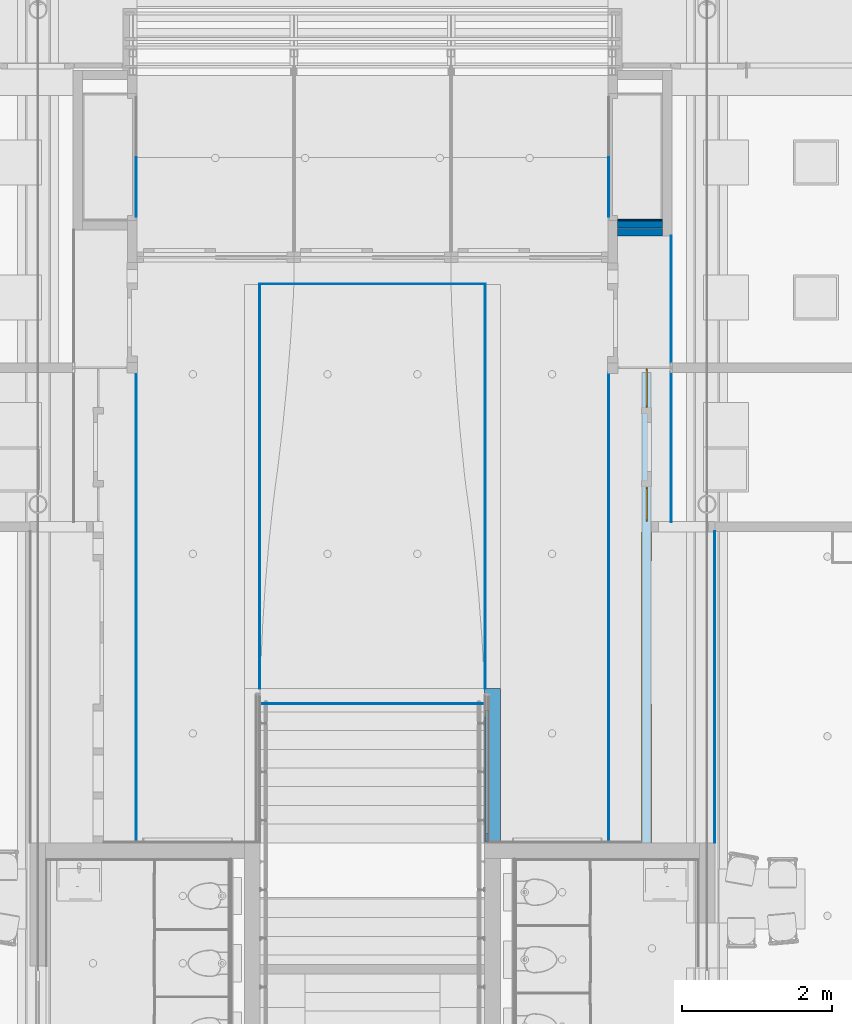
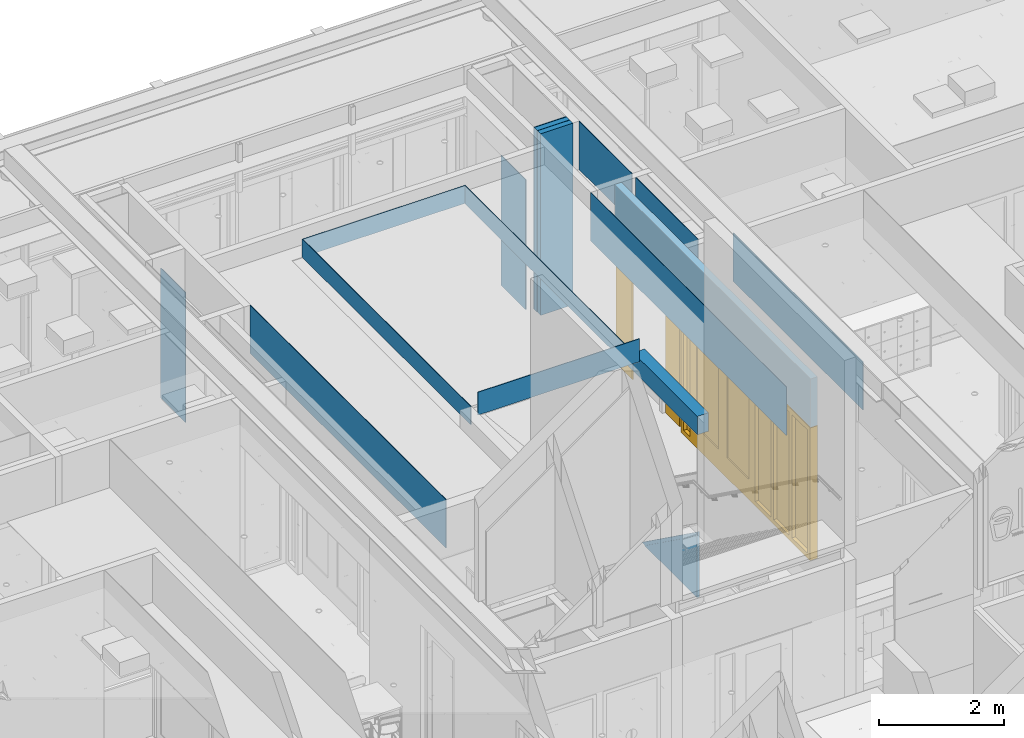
# One storey, part 83 of 347: 15 walls, 2 windows, 1 door, 4 openings, plus 1 element that does not belong to this part.
"""IFC2X3 building model written with IfcOpenShell, lengths in millimetres."""

from ifc_helpers import new_model, entity, si_unit, converted_unit, derived_unit, money_unit, direction, frame, origin_with_axes, place, context, subcontext, project, spatial, open_shell, faceted_brep, surface_model, material, type_object, element, fill, save


model = new_model("IFC2X3")

# Units and contexts
model_context = context("Model", 3, precision=0.01, world=origin_with_axes(), true_north=direction((0.0, 1.0)))
plan_context = context("Plan", 3, precision=0.01, world=origin_with_axes(), true_north=direction((0.0, 1.0)))
body_context = subcontext(model_context, "Body", "Model", "MODEL_VIEW")
ifc_project = project(units=[si_unit("LENGTHUNIT", "METRE", prefix="MILLI"), si_unit("AREAUNIT", "SQUARE_METRE"), si_unit("VOLUMEUNIT", "CUBIC_METRE"), converted_unit("PLANEANGLEUNIT", "DEGREE", entity("IfcPlaneAngleMeasure", 0.0174532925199), si_unit("PLANEANGLEUNIT", "RADIAN"), dimensions=[0, 0, 0, 0, 0, 0, 0]), money_unit("EUR"), converted_unit("TIMEUNIT", "Year", entity("IfcTimeMeasure", 31556926.0), si_unit("TIMEUNIT", "SECOND"), dimensions=[0, 0, 1, 0, 0, 0, 0]), si_unit("MASSUNIT", "GRAM", prefix="KILO"), si_unit("THERMODYNAMICTEMPERATUREUNIT", "DEGREE_CELSIUS"), si_unit("LUMINOUSINTENSITYUNIT", "LUMEN"), si_unit("ENERGYUNIT", "JOULE", prefix="MEGA"), derived_unit("THERMALCONDUCTANCEUNIT", [(si_unit("POWERUNIT", "WATT"), 1), (si_unit("LENGTHUNIT", "METRE"), -1), (si_unit("THERMODYNAMICTEMPERATUREUNIT", "KELVIN"), -1)]), derived_unit("SPECIFICHEATCAPACITYUNIT", [(si_unit("ENERGYUNIT", "JOULE"), 1), (si_unit("MASSUNIT", "GRAM", prefix="KILO"), -1), (si_unit("THERMODYNAMICTEMPERATUREUNIT", "KELVIN"), -1)]), derived_unit("MASSDENSITYUNIT", [(si_unit("MASSUNIT", "GRAM", prefix="KILO"), 1), (si_unit("VOLUMEUNIT", "CUBIC_METRE"), -1)])], contexts=[model_context, plan_context])

# Site, building, storey
site_placement = place(None, origin_with_axes())
site = spatial("IfcSite", under=ifc_project, at=site_placement, Name="Site", CompositionType="ELEMENT")
building_placement = place(site_placement, origin_with_axes())
building = spatial("IfcBuilding", under=site, at=building_placement, Name="Naam gebouw", CompositionType="ELEMENT")
storey_placement = place(building_placement, origin_with_axes())
storey = spatial("IfcBuildingStorey", under=building, at=storey_placement, Name="begane grond", CompositionType="ELEMENT", Elevation=0.0)

# Wall, openings, windows, door
ifc_material_1 = material(Name="ALG - LICHTE SCHEIDINGSWAND")
wall_type_1 = type_object("IfcWallType", Name="ALG LSW 125 125", PredefinedType="NOTDEFINED")
wall_1_placement = place(storey_placement, frame((43675.0, 34799.9999802, 0.0), z_axis=(0.0, 0.0, 1.0), x_axis=(0.0, 1.0, 0.0)))
wall_1 = element("IfcWall", 1, at=wall_1_placement, inside=storey, type_object=wall_type_1, material=ifc_material_1, Name="22_GF 125 ECO DGS/2.75.2A", context=body_context, shape_type="Brep", body=[
    faceted_brep([(0.0, -125.0, 3560.0), (5.55752777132e-05, -125.0, 2612.0), (6287.5000198, -125.0, 2612.0), (6287.5000198, -125.0, 3560.0), (0.0, 0.0, 3560.0), (5.55752777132e-05, 0.0, 2612.0), (6287.5000198, 0.0, 2612.0), (6287.5000198, 0.0, 3560.0)], [[[0, 1, 2, 3]], [[4, 5, 1, 0]], [[5, 6, 2, 1]], [[3, 2, 6, 7]], [[0, 3, 7, 4]], [[7, 6, 5, 4]]]),
])
opening_1_placement = place(wall_1_placement, frame((4525.00002877, 0.0, 0.0), z_axis=(0.0, 0.0, 1.0), x_axis=(1.0, 0.0, 0.0)))
opening_1 = element("IfcOpeningElement", 2, at=opening_1_placement, cuts=wall_1, Name="32_10.07", context=body_context, shape_type="Brep", body=[
    faceted_brep([(230.500008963, -250.0, 2600.0), (230.500008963, -250.0, 0.0), (230.500008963, -52.5, 0.0), (230.500008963, -52.5, 2600.0), (-230.500008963, -250.0, 2600.0), (-230.500008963, -250.0, 0.0), (-230.500008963, -52.5, 0.0), (-230.500008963, -52.5, 2600.0)], [[[0, 1, 2, 3]], [[0, 4, 5, 1]], [[1, 5, 6, 2]], [[3, 2, 6, 7]], [[4, 0, 3, 7]], [[5, 4, 7, 6]]]),
    faceted_brep([(230.500008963, 125.0, 0.0), (230.500008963, 125.0, 2600.0), (230.500008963, -52.5, 2600.0), (230.500008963, -52.5, 0.0), (-230.500008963, 125.0, 0.0), (-230.500008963, 125.0, 2600.0), (-230.500008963, -52.5, 2600.0), (-230.500008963, -52.5, 0.0)], [[[0, 1, 2, 3]], [[0, 4, 5, 1]], [[1, 5, 6, 2]], [[3, 2, 6, 7]], [[4, 0, 3, 7]], [[5, 4, 7, 6]]]),
])
opening_2_placement = place(wall_1_placement, frame((6079.75002877, 0.0, 0.0), z_axis=(0.0, 0.0, 1.0), x_axis=(1.0, 0.0, 0.0)))
opening_2 = element("IfcOpeningElement", 3, at=opening_2_placement, cuts=wall_1, Name="32_10.08", context=body_context, shape_type="Brep", body=[
    faceted_brep([(260.249991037, -250.0, 2600.0), (260.249991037, -250.0, 0.0), (260.249991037, -52.5, 0.0), (260.249991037, -52.5, 2600.0), (-260.249991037, -250.0, 2600.0), (-260.249991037, -250.0, 0.0), (-260.249991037, -52.5, 0.0), (-260.249991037, -52.5, 2600.0)], [[[0, 1, 2, 3]], [[0, 4, 5, 1]], [[1, 5, 6, 2]], [[3, 2, 6, 7]], [[4, 0, 3, 7]], [[5, 4, 7, 6]]]),
    faceted_brep([(260.249991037, 125.0, 0.0), (260.249991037, 125.0, 2600.0), (260.249991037, -52.5, 2600.0), (260.249991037, -52.5, 0.0), (-260.249991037, 125.0, 0.0), (-260.249991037, 125.0, 2600.0), (-260.249991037, -52.5, 2600.0), (-260.249991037, -52.5, 0.0)], [[[0, 1, 2, 3]], [[0, 4, 5, 1]], [[1, 5, 6, 2]], [[3, 2, 6, 7]], [[4, 0, 3, 7]], [[5, 4, 7, 6]]]),
])
opening_3_placement = place(wall_1_placement, frame((2077.7500198, 0.0, 0.0), z_axis=(0.0, 0.0, 1.0), x_axis=(1.0, 0.0, 0.0)))
opening_3 = element("IfcOpeningElement", 4, at=opening_3_placement, cuts=wall_1, Name="32_05.05", context=body_context, shape_type="Brep", body=[
    faceted_brep([(-2077.75, -257.0, 0.0), (-2077.75, -257.0, 2600.0), (-2077.75, 125.0, 2600.0), (-2077.75, 125.0, 0.0), (2077.75, -257.0, 0.0), (2077.75, -257.0, 2600.0), (2077.75, 125.0, 2600.0), (2077.75, 125.0, 0.0)], [[[0, 1, 2, 3]], [[0, 4, 5, 1]], [[1, 5, 6, 2]], [[3, 2, 6, 7]], [[4, 0, 3, 7]], [[5, 4, 7, 6]]]),
])
opening_4_placement = place(wall_1_placement, frame((5287.50003773, 0.0, 0.0), z_axis=(0.0, 0.0, 1.0), x_axis=(1.0, 0.0, 0.0)))
element("IfcOpeningElement", 5, at=opening_4_placement, cuts=wall_1, Name="32_01.01", context=body_context, shape_type="Brep", body=[
    faceted_brep([(532.0, 257.0, 0.0), (532.0, 257.0, 2600.0), (532.0, -125.0, 2600.0), (532.0, -125.0, 0.0), (-532.0, 257.0, 0.0), (-532.0, 257.0, 2600.0), (-532.0, -125.0, 2600.0), (-532.0, -125.0, 0.0)], [[[0, 1, 2, 3]], [[0, 4, 5, 1]], [[1, 5, 6, 2]], [[3, 2, 6, 7]], [[4, 0, 3, 7]], [[5, 4, 7, 6]]]),
])
window_style = type_object("IfcWindowStyle", Name="R1 25", ConstructionType="NOTDEFINED", OperationType="SINGLE_PANEL", ParameterTakesPrecedence=False, Sizeable=False)
window_1_placement = place(opening_1_placement, frame((-230.500008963, 0.0, 0.0), z_axis=(0.0, 0.0, 1.0), x_axis=(1.0, 0.0, 0.0)))
window_1 = element("IfcWindow", 6, at=window_1_placement, inside=storey, type_object=window_style, Name="32_10.07", ObjectType="WINDOW", OverallHeight=2600.0, OverallWidth=461.0, context=body_context, shape_type="SurfaceModel", body=[
    faceted_brep([(20.0, -72.5, 2580.0), (20.0, -52.5, 2580.0), (0.0, -52.5, 2580.0), (0.0, -72.5, 2580.0), (20.0, -72.5, 20.0), (20.0, -52.5, 20.0), (0.0, -52.5, 20.0), (0.0, -72.5, 20.0)], [[[0, 1, 2, 3]], [[4, 5, 1, 0]], [[1, 5, 6, 2]], [[3, 2, 6, 7]], [[0, 3, 7, 4]], [[7, 6, 5, 4]]]),
    faceted_brep([(441.000017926, -72.5, 20.0), (441.000017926, -52.5, 20.0), (461.000017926, -52.5, 20.0), (461.000017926, -72.5, 20.0), (441.000017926, -72.5, 2580.0), (441.000017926, -52.5, 2580.0), (461.000017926, -52.5, 2580.0), (461.000017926, -72.5, 2580.0)], [[[0, 1, 2, 3]], [[4, 5, 1, 0]], [[1, 5, 6, 2]], [[3, 2, 6, 7]], [[0, 3, 7, 4]], [[7, 6, 5, 4]]]),
    faceted_brep([(20.0, -72.5, 20.0), (20.0, -52.5, 20.0), (0.0, -52.5, 20.0), (0.0, -72.5, 20.0), (441.000017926, -72.5, 20.0), (441.000017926, -52.5, 20.0), (461.000017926, -52.5, 20.0), (461.000017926, -52.5, 0.0), (0.0, -52.5, 0.0), (0.0, -72.5, 0.0), (461.000017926, -72.5, 0.0), (461.000017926, -72.5, 20.0)], [[[0, 1, 2, 3]], [[4, 5, 1, 0]], [[1, 5, 6, 7, 8, 2]], [[3, 2, 8, 9]], [[0, 3, 9, 10, 11, 4]], [[11, 6, 5, 4]], [[10, 7, 6, 11]], [[9, 8, 7, 10]]]),
    faceted_brep([(441.000017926, -72.5, 2580.0), (441.000017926, -52.5, 2580.0), (461.000017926, -52.5, 2580.0), (461.000017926, -72.5, 2580.0), (20.0, -72.5, 2580.0), (20.0, -52.5, 2580.0), (0.0, -52.5, 2580.0), (0.0, -52.5, 2600.0), (461.000017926, -52.5, 2600.0), (461.000017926, -72.5, 2600.0), (0.0, -72.5, 2600.0), (0.0, -72.5, 2580.0)], [[[0, 1, 2, 3]], [[4, 5, 1, 0]], [[1, 5, 6, 7, 8, 2]], [[3, 2, 8, 9]], [[0, 3, 9, 10, 11, 4]], [[11, 6, 5, 4]], [[10, 7, 6, 11]], [[9, 8, 7, 10]]]),
    surface_model("IfcShellBasedSurfaceModel", [(20.0, -72.5, 20.0), (441.000017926, -72.5, 20.0), (441.000017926, -72.5, 2580.0), (20.0, -72.5, 2580.0)], [open_shell([[[0, 1, 2, 3]]])]),
    surface_model("IfcShellBasedSurfaceModel", [(20.0, -52.5, 20.0), (20.0, -52.5, 2580.0), (441.000017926, -52.5, 2580.0), (441.000017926, -52.5, 20.0)], [open_shell([[[0, 1, 2, 3]]])]),
])
fill(opening_1, window_1)
window_2_placement = place(opening_2_placement, frame((-260.249991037, 0.0, 0.0), z_axis=(0.0, 0.0, 1.0), x_axis=(1.0, 0.0, 0.0)))
window_2 = element("IfcWindow", 7, at=window_2_placement, inside=storey, type_object=window_style, Name="32_10.08", ObjectType="WINDOW", OverallHeight=2600.0, OverallWidth=520.5, context=body_context, shape_type="SurfaceModel", body=[
    faceted_brep([(20.0, -72.5, 2580.0), (20.0, -52.5, 2580.0), (0.0, -52.5, 2580.0), (0.0, -72.5, 2580.0), (20.0, -72.5, 20.0), (20.0, -52.5, 20.0), (0.0, -52.5, 20.0), (0.0, -72.5, 20.0)], [[[0, 1, 2, 3]], [[4, 5, 1, 0]], [[1, 5, 6, 2]], [[3, 2, 6, 7]], [[0, 3, 7, 4]], [[7, 6, 5, 4]]]),
    faceted_brep([(500.499982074, -72.5, 20.0), (500.499982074, -52.5, 20.0), (520.499982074, -52.5, 20.0), (520.499982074, -72.5, 20.0), (500.499982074, -72.5, 2580.0), (500.499982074, -52.5, 2580.0), (520.499982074, -52.5, 2580.0), (520.499982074, -72.5, 2580.0)], [[[0, 1, 2, 3]], [[4, 5, 1, 0]], [[1, 5, 6, 2]], [[3, 2, 6, 7]], [[0, 3, 7, 4]], [[7, 6, 5, 4]]]),
    faceted_brep([(20.0, -72.5, 20.0), (20.0, -52.5, 20.0), (0.0, -52.5, 20.0), (0.0, -72.5, 20.0), (500.499982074, -72.5, 20.0), (500.499982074, -52.5, 20.0), (520.499982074, -52.5, 20.0), (520.499982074, -52.5, 0.0), (0.0, -52.5, 0.0), (0.0, -72.5, 0.0), (520.499982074, -72.5, 0.0), (520.499982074, -72.5, 20.0)], [[[0, 1, 2, 3]], [[4, 5, 1, 0]], [[1, 5, 6, 7, 8, 2]], [[3, 2, 8, 9]], [[0, 3, 9, 10, 11, 4]], [[11, 6, 5, 4]], [[10, 7, 6, 11]], [[9, 8, 7, 10]]]),
    faceted_brep([(500.499982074, -72.5, 2580.0), (500.499982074, -52.5, 2580.0), (520.499982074, -52.5, 2580.0), (520.499982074, -72.5, 2580.0), (20.0, -72.5, 2580.0), (20.0, -52.5, 2580.0), (0.0, -52.5, 2580.0), (0.0, -52.5, 2600.0), (520.499982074, -52.5, 2600.0), (520.499982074, -72.5, 2600.0), (0.0, -72.5, 2600.0), (0.0, -72.5, 2580.0)], [[[0, 1, 2, 3]], [[4, 5, 1, 0]], [[1, 5, 6, 7, 8, 2]], [[3, 2, 8, 9]], [[0, 3, 9, 10, 11, 4]], [[11, 6, 5, 4]], [[10, 7, 6, 11]], [[9, 8, 7, 10]]]),
    surface_model("IfcShellBasedSurfaceModel", [(20.0, -72.5, 20.0), (500.499982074, -72.5, 20.0), (500.499982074, -72.5, 2580.0), (20.0, -72.5, 2580.0)], [open_shell([[[0, 1, 2, 3]]])]),
    surface_model("IfcShellBasedSurfaceModel", [(20.0, -52.5, 20.0), (20.0, -52.5, 2580.0), (500.499982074, -52.5, 2580.0), (500.499982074, -52.5, 20.0)], [open_shell([[[0, 1, 2, 3]]])]),
])
fill(opening_2, window_2)
door_style = type_object("IfcDoorStyle", Name="D2 zl2 25", ConstructionType="NOTDEFINED", OperationType="USERDEFINED", ParameterTakesPrecedence=False, Sizeable=False)
door_placement = place(opening_3_placement, frame((-2077.75, 0.0, 0.0), z_axis=(0.0, 0.0, 1.0), x_axis=(1.0, 0.0, 0.0)))
door = element("IfcDoor", 8, at=door_placement, inside=storey, type_object=door_style, Name="32_05.05", ObjectType="DOOR", OverallHeight=2600.0, OverallWidth=4155.5, context=body_context, shape_type="SurfaceModel", body=[
    faceted_brep([(4155.5, 7.0, 0.0), (4155.5, -132.0, 0.0), (4065.5, -132.0, 0.0), (4065.5, 7.0, 0.0), (4155.5, 7.0, 2510.0), (4155.5, -132.0, 2510.0), (4065.5, -132.0, 2510.0), (4065.5, -132.0, 90.0), (4065.5, 7.0, 90.0), (4065.5, 7.0, 2510.0)], [[[0, 1, 2, 3]], [[4, 5, 1, 0]], [[1, 5, 6, 7, 2]], [[3, 2, 7, 8]], [[0, 3, 8, 9, 4]], [[9, 6, 5, 4]], [[8, 7, 6, 9]]]),
    faceted_brep([(3765.5, -43.0, 0.0), (3765.5, -132.0, 0.0), (3765.5, -132.0, 2510.0), (3765.5, -43.0, 2510.0), (3790.5, -43.0, 0.0), (3790.5, 7.0, 0.0), (3855.5, 7.0, 0.0), (3855.5, -132.0, 0.0), (3855.5, -132.0, 90.0), (3855.5, -132.0, 2510.0), (3790.5, -43.0, 2510.0), (3855.5, 7.0, 2510.0), (3790.5, 7.0, 2510.0), (3855.5, 7.0, 90.0)], [[[0, 1, 2, 3]], [[4, 5, 6, 7, 1, 0]], [[7, 8, 9, 2, 1]], [[10, 3, 2, 9, 11, 12]], [[10, 4, 0, 3]], [[12, 5, 4, 10]], [[12, 11, 13, 6, 5]], [[6, 13, 8, 7]], [[13, 11, 9, 8]]]),
    faceted_brep([(4065.5, 7.0, 90.0), (4065.5, -132.0, 90.0), (4065.5, -132.0, 0.0), (4065.5, 7.0, 0.0), (3855.5, 7.0, 90.0), (3855.5, -132.0, 90.0), (3855.5, -132.0, 0.0), (3855.5, 7.0, 0.0)], [[[0, 1, 2, 3]], [[4, 5, 1, 0]], [[1, 5, 6, 2]], [[3, 2, 6, 7]], [[0, 3, 7, 4]], [[7, 6, 5, 4]]]),
    faceted_brep([(0.0, 7.0, 0.0), (0.0, -132.0, 0.0), (0.0, -132.0, 2510.0), (0.0, 7.0, 2510.0), (90.0, 7.0, 0.0), (90.0, -132.0, 0.0), (90.0, -132.0, 90.0), (90.0, -132.0, 2510.0), (90.0, 7.0, 2510.0), (90.0, 7.0, 90.0)], [[[0, 1, 2, 3]], [[4, 5, 1, 0]], [[1, 5, 6, 7, 2]], [[3, 2, 7, 8]], [[0, 3, 8, 9, 4]], [[9, 6, 5, 4]], [[8, 7, 6, 9]]]),
    faceted_brep([(1830.5, -43.0, 2510.0), (1830.5, 7.0, 2510.0), (1765.5, 7.0, 2510.0), (1765.5, -132.0, 2510.0), (1855.5, -132.0, 2510.0), (1855.5, -43.0, 2510.0), (1830.5, -43.0, 0.0), (1830.5, 7.0, 0.0), (1765.5, 7.0, 0.0), (1765.5, 7.0, 90.0), (1765.5, -132.0, 90.0), (1855.5, -132.0, 0.0), (1765.5, -132.0, 0.0), (1855.5, -43.0, 0.0)], [[[0, 1, 2, 3, 4, 5]], [[0, 6, 7, 1]], [[7, 8, 9, 2, 1]], [[2, 9, 10, 3]], [[11, 4, 3, 10, 12]], [[5, 4, 11, 13]], [[5, 13, 6, 0]], [[6, 13, 11, 12, 8, 7]], [[9, 8, 12, 10]]]),
    faceted_brep([(1765.5, 7.0, 90.0), (1765.5, -132.0, 90.0), (1765.5, -132.0, 0.0), (1765.5, 7.0, 0.0), (90.0, 7.0, 90.0), (90.0, -132.0, 90.0), (90.0, -132.0, 0.0), (90.0, 7.0, 0.0)], [[[0, 1, 2, 3]], [[4, 5, 1, 0]], [[1, 5, 6, 2]], [[3, 2, 6, 7]], [[0, 3, 7, 4]], [[7, 6, 5, 4]]]),
    faceted_brep([(3790.5, 7.0, 2535.0), (1830.5, 7.0, 2535.0), (1830.5, 7.0, 2510.0), (1765.5, 7.0, 2510.0), (90.0, 7.0, 2510.0), (0.0, 7.0, 2510.0), (0.0, 7.0, 2600.0), (4155.5, 7.0, 2600.0), (4155.5, 7.0, 2510.0), (4065.5, 7.0, 2510.0), (3855.5, 7.0, 2510.0), (3790.5, 7.0, 2510.0), (3790.5, -43.0, 2535.0), (1830.5, -43.0, 2535.0), (1830.5, -43.0, 2510.0), (1855.5, -43.0, 2510.0), (1855.5, -132.0, 2510.0), (1765.5, -132.0, 2510.0), (90.0, -132.0, 2510.0), (0.0, -132.0, 2510.0), (0.0, -132.0, 2600.0), (4155.5, -132.0, 2600.0), (4155.5, -132.0, 2510.0), (4065.5, -132.0, 2510.0), (3855.5, -132.0, 2510.0), (3790.5, -43.0, 2510.0), (3765.5, -132.0, 2510.0)], [[[0, 1, 2, 3, 4, 5, 6, 7, 8, 9, 10, 11]], [[0, 12, 13, 1]], [[1, 13, 14, 2]], [[14, 15, 16, 17, 18, 4, 3, 2]], [[5, 4, 18, 19]], [[6, 5, 19, 20]], [[7, 6, 20, 21]], [[8, 7, 21, 22]], [[9, 8, 22, 23]], [[10, 9, 23, 24]], [[25, 11, 10, 24, 26, 16, 15]], [[11, 25, 12, 0]], [[14, 13, 12, 25, 15]], [[18, 17, 16, 26, 24, 23, 22, 21, 20, 19]]]),
    faceted_brep([(1830.5, 7.0, 400.0), (1970.5, 7.0, 400.0), (1970.5, -43.0, 400.0), (1830.5, -43.0, 400.0), (1830.5, 7.0, 2395.0), (1970.5, 7.0, 2395.0), (1970.5, -43.0, 2395.0), (1830.5, -43.0, 2395.0)], [[[0, 1, 2, 3]], [[0, 4, 5, 1]], [[1, 5, 6, 2]], [[3, 2, 6, 7]], [[4, 0, 3, 7]], [[5, 4, 7, 6]]]),
    faceted_brep([(2810.5, 7.0, 400.0), (2810.5, 7.0, 2395.0), (2810.5, -43.0, 2395.0), (2810.5, -43.0, 400.0), (2670.5, 7.0, 400.0), (2670.5, 7.0, 2395.0), (2670.5, -43.0, 2395.0), (2670.5, -43.0, 400.0)], [[[0, 1, 2, 3]], [[0, 4, 5, 1]], [[1, 5, 6, 2]], [[3, 2, 6, 7]], [[4, 0, 3, 7]], [[5, 4, 7, 6]]]),
    faceted_brep([(1830.5, 7.0, 0.0), (2810.5, 7.0, 0.0), (2810.5, -43.0, 0.0), (1830.5, -43.0, 0.0), (1830.5, 7.0, 400.0), (1970.5, 7.0, 400.0), (2670.5, 7.0, 400.0), (2810.5, 7.0, 400.0), (2810.5, -43.0, 400.0), (2670.5, -43.0, 400.0), (1970.5, -43.0, 400.0), (1830.5, -43.0, 400.0)], [[[0, 1, 2, 3]], [[0, 4, 5, 6, 7, 1]], [[1, 7, 8, 2]], [[3, 2, 8, 9, 10, 11]], [[4, 0, 3, 11]], [[5, 4, 11, 10]], [[6, 5, 10, 9]], [[7, 6, 9, 8]]]),
    faceted_brep([(1830.5, 7.0, 2535.0), (1830.5, 7.0, 2395.0), (1830.5, -43.0, 2395.0), (1830.5, -43.0, 2535.0), (2810.5, 7.0, 2535.0), (2810.5, 7.0, 2395.0), (2670.5, 7.0, 2395.0), (1970.5, 7.0, 2395.0), (1970.5, -43.0, 2395.0), (2670.5, -43.0, 2395.0), (2810.5, -43.0, 2395.0), (2810.5, -43.0, 2535.0)], [[[0, 1, 2, 3]], [[0, 4, 5, 6, 7, 1]], [[1, 7, 8, 2]], [[3, 2, 8, 9, 10, 11]], [[4, 0, 3, 11]], [[5, 4, 11, 10]], [[6, 5, 10, 9]], [[7, 6, 9, 8]]]),
    surface_model("IfcShellBasedSurfaceModel", [(1970.5, -12.0, 400.0), (1970.5, -12.0, 2395.0), (2670.5, -12.0, 2395.0), (2670.5, -12.0, 400.0)], [open_shell([[[0, 1, 2, 3]]])]),
    surface_model("IfcShellBasedSurfaceModel", [(1970.5, -24.0, 400.0), (2670.5, -24.0, 400.0), (2670.5, -24.0, 2395.0), (1970.5, -24.0, 2395.0)], [open_shell([[[0, 1, 2, 3]]])]),
    faceted_brep([(3790.5, 7.0, 400.0), (3790.5, -43.0, 400.0), (3650.5, -43.0, 400.0), (3650.5, 7.0, 400.0), (3790.5, 7.0, 2395.0), (3790.5, -43.0, 2395.0), (3650.5, -43.0, 2395.0), (3650.5, 7.0, 2395.0)], [[[0, 1, 2, 3]], [[4, 5, 1, 0]], [[1, 5, 6, 2]], [[3, 2, 6, 7]], [[0, 3, 7, 4]], [[7, 6, 5, 4]]]),
    faceted_brep([(2810.5, 7.0, 400.0), (2810.5, -43.0, 400.0), (2810.5, -43.0, 2395.0), (2810.5, 7.0, 2395.0), (2950.5, 7.0, 400.0), (2950.5, -43.0, 400.0), (2950.5, -43.0, 2395.0), (2950.5, 7.0, 2395.0)], [[[0, 1, 2, 3]], [[4, 5, 1, 0]], [[1, 5, 6, 2]], [[3, 2, 6, 7]], [[0, 3, 7, 4]], [[7, 6, 5, 4]]]),
    faceted_brep([(3790.5, 7.0, 0.0), (3790.5, -43.0, 0.0), (2810.5, -43.0, 0.0), (2810.5, 7.0, 0.0), (3790.5, 7.0, 400.0), (3790.5, -43.0, 400.0), (3650.5, -43.0, 400.0), (2950.5, -43.0, 400.0), (2810.5, -43.0, 400.0), (2810.5, 7.0, 400.0), (2950.5, 7.0, 400.0), (3650.5, 7.0, 400.0)], [[[0, 1, 2, 3]], [[4, 5, 1, 0]], [[1, 5, 6, 7, 8, 2]], [[3, 2, 8, 9]], [[0, 3, 9, 10, 11, 4]], [[11, 6, 5, 4]], [[10, 7, 6, 11]], [[9, 8, 7, 10]]]),
    faceted_brep([(3790.5, 7.0, 2535.0), (3790.5, -43.0, 2535.0), (3790.5, -43.0, 2395.0), (3790.5, 7.0, 2395.0), (2810.5, 7.0, 2535.0), (2810.5, -43.0, 2535.0), (2810.5, -43.0, 2395.0), (2950.5, -43.0, 2395.0), (3650.5, -43.0, 2395.0), (3650.5, 7.0, 2395.0), (2950.5, 7.0, 2395.0), (2810.5, 7.0, 2395.0)], [[[0, 1, 2, 3]], [[4, 5, 1, 0]], [[1, 5, 6, 7, 8, 2]], [[3, 2, 8, 9]], [[0, 3, 9, 10, 11, 4]], [[11, 6, 5, 4]], [[10, 7, 6, 11]], [[9, 8, 7, 10]]]),
    surface_model("IfcShellBasedSurfaceModel", [(3650.5, -12.0, 400.0), (2950.5, -12.0, 400.0), (2950.5, -12.0, 2395.0), (3650.5, -12.0, 2395.0)], [open_shell([[[0, 1, 2, 3]]])]),
    surface_model("IfcShellBasedSurfaceModel", [(3650.5, -24.0, 400.0), (3650.5, -24.0, 2395.0), (2950.5, -24.0, 2395.0), (2950.5, -24.0, 400.0)], [open_shell([[[0, 1, 2, 3]]])]),
    surface_model("IfcShellBasedSurfaceModel", [(4065.5, -56.5, 90.0), (3855.5, -56.5, 90.0), (3855.5, -56.5, 2510.0), (4065.5, -56.5, 2510.0)], [open_shell([[[0, 1, 2, 3]]])]),
    surface_model("IfcShellBasedSurfaceModel", [(4065.5, -68.5, 90.0), (4065.5, -68.5, 2510.0), (3855.5, -68.5, 2510.0), (3855.5, -68.5, 90.0)], [open_shell([[[0, 1, 2, 3]]])]),
    surface_model("IfcShellBasedSurfaceModel", [(1267.0, -56.5, 90.0), (1267.0, -56.5, 2510.0), (1765.5, -56.5, 2510.0), (1765.5, -56.5, 90.0)], [open_shell([[[0, 1, 2, 3]]])]),
    surface_model("IfcShellBasedSurfaceModel", [(1267.0, -68.5, 90.0), (1765.5, -68.5, 90.0), (1765.5, -68.5, 2510.0), (1267.0, -68.5, 2510.0)], [open_shell([[[0, 1, 2, 3]]])]),
    surface_model("IfcShellBasedSurfaceModel", [(678.5, -56.5, 90.0), (678.5, -56.5, 2510.0), (1177.0, -56.5, 2510.0), (1177.0, -56.5, 90.0)], [open_shell([[[0, 1, 2, 3]]])]),
    surface_model("IfcShellBasedSurfaceModel", [(678.5, -68.5, 90.0), (1177.0, -68.5, 90.0), (1177.0, -68.5, 2510.0), (678.5, -68.5, 2510.0)], [open_shell([[[0, 1, 2, 3]]])]),
    surface_model("IfcShellBasedSurfaceModel", [(90.0, -56.5, 90.0), (90.0, -56.5, 2510.0), (588.5, -56.5, 2510.0), (588.5, -56.5, 90.0)], [open_shell([[[0, 1, 2, 3]]])]),
    surface_model("IfcShellBasedSurfaceModel", [(90.0, -68.5, 90.0), (588.5, -68.5, 90.0), (588.5, -68.5, 2510.0), (90.0, -68.5, 2510.0)], [open_shell([[[0, 1, 2, 3]]])]),
    faceted_brep([(1267.0, 7.0, 90.0), (1267.0, -132.0, 90.0), (1177.0, -132.0, 90.0), (1177.0, 7.0, 90.0), (1267.0, 7.0, 2510.0), (1267.0, -132.0, 2510.0), (1177.0, -132.0, 2510.0), (1177.0, 7.0, 2510.0)], [[[0, 1, 2, 3]], [[4, 5, 1, 0]], [[1, 5, 6, 2]], [[3, 2, 6, 7]], [[0, 3, 7, 4]], [[7, 6, 5, 4]]]),
    faceted_brep([(678.5, 7.0, 90.0), (678.5, -132.0, 90.0), (588.5, -132.0, 90.0), (588.5, 7.0, 90.0), (678.5, 7.0, 2510.0), (678.5, -132.0, 2510.0), (588.5, -132.0, 2510.0), (588.5, 7.0, 2510.0)], [[[0, 1, 2, 3]], [[4, 5, 1, 0]], [[1, 5, 6, 2]], [[3, 2, 6, 7]], [[0, 3, 7, 4]], [[7, 6, 5, 4]]]),
])
fill(opening_3, door)

# Walls
wall_type_2 = type_object("IfcWallType", Name="44 koof 50", PredefinedType="NOTDEFINED")
wall_2_placement = place(storey_placement, frame((44655.0, 38962.5, 2600.0), z_axis=(0.0, 0.0, 1.0), x_axis=(0.0, -1.0, 0.0)))
element("IfcWall", 9, at=wall_2_placement, inside=storey, type_object=wall_type_2, material=ifc_material_1, Name="21_22 betonwand", context=body_context, shape_type="Brep", body=[
    faceted_brep([(4162.5, 0.0, 960.0), (4162.49996423, -0.000141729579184, 12.0), (-3.39530146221e-05, -0.000141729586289, 12.0), (0.0, 0.0, 960.0), (4162.5, -12.0, 960.0), (4162.49996423, -12.0, 12.0), (-3.39530146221e-05, -12.0, 12.0), (0.0, -12.0, 960.0)], [[[0, 1, 2, 3]], [[4, 5, 1, 0]], [[5, 6, 2, 1]], [[3, 2, 6, 7]], [[3, 7, 4, 0]], [[7, 6, 5, 4]]]),
])
wall_3_placement = place(storey_placement, frame((44075.0, 42910.5, 2600.0), z_axis=(0.0, 0.0, 1.0), x_axis=(0.0, -1.0, 0.0)))
element("IfcWall", 10, at=wall_3_placement, inside=storey, type_object=wall_type_2, material=ifc_material_1, Name="21_22 betonwand", context=body_context, shape_type="Brep", body=[
    faceted_brep([(1698.0, 0.0, 960.0), (1698.0, 3.30935563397e-05, 12.0), (0.0, 3.30935563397e-05, 12.0), (0.0, 0.0, 960.0), (1698.0, -12.0, 960.0), (1698.0, -12.0, 12.0), (0.0, -12.0, 12.0), (0.0, -12.0, 960.0)], [[[0, 1, 2, 3]], [[4, 5, 1, 0]], [[5, 6, 2, 1]], [[3, 2, 6, 7]], [[4, 0, 3, 7]], [[7, 6, 5, 4]]]),
    faceted_brep([(3823.0, 0.0, 960.0), (3823.0, 3.30935563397e-05, 12.0), (1823.0, 3.30935563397e-05, 12.0), (1823.0, 0.0, 960.0), (3823.0, -12.0, 960.0), (3823.0, -12.0, 12.0), (1823.0, -12.0, 12.0), (1823.0, -12.0, 960.0)], [[[0, 1, 2, 3]], [[4, 5, 1, 0]], [[5, 6, 2, 1]], [[3, 2, 6, 7]], [[0, 3, 7, 4]], [[7, 6, 5, 4]]]),
])
wall_4_placement = place(storey_placement, frame((43225.0, 34800.0, 2600.0), z_axis=(0.0, 0.0, 1.0), x_axis=(0.0, 1.0, 0.0)))
element("IfcWall", 11, at=wall_4_placement, inside=storey, type_object=wall_type_2, material=ifc_material_1, Name="21_22 betonwand", context=body_context, shape_type="Brep", body=[
    faceted_brep([(0.0, -12.0, 960.0), (3.57714995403e-05, -12.0, 12.0), (6287.5000196, -12.0, 12.0), (6287.5, -12.0, 960.0), (0.0, 0.0, 960.0), (3.57714995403e-05, 3.36773169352e-05, 12.0), (6287.5000196, 3.36773169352e-05, 12.0), (6287.5, 0.0, 960.0)], [[[0, 1, 2, 3]], [[4, 5, 1, 0]], [[5, 6, 2, 1]], [[3, 2, 6, 7]], [[4, 0, 3, 7]], [[7, 6, 5, 4]]]),
])
wall_5_placement = place(storey_placement, frame((38575.0, 36862.4999592, 3190.0), z_axis=(0.0, 0.0, 1.0), x_axis=(0.0, 1.0, 0.0)))
element("IfcWall", 12, at=wall_5_placement, inside=storey, type_object=wall_type_2, material=ifc_material_1, Name="21_22 betonwand", context=body_context, shape_type="Brep", body=[
    faceted_brep([(0.0, 0.0, 370.0), (0.0, -5.01306018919e-05, 12.0), (5400.00008308, -5.01306018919e-05, 12.0), (5400.00013235, 0.0, 22.0), (5412.00008308, 0.0, 22.0), (5412.00008308, 0.0, 370.0), (0.0, 12.0, 370.0), (0.0, 12.0, 12.0), (5400.00008308, 12.0, 12.0), (5400.00013235, 12.0, 22.0), (5412.00008308, 12.0, 22.0), (5412.00008308, 12.0, 370.0)], [[[0, 1, 2, 3, 4, 5]], [[6, 7, 1, 0]], [[7, 8, 2, 1]], [[3, 2, 8, 9]], [[9, 10, 4, 3]], [[5, 4, 10, 11]], [[6, 0, 5, 11]], [[9, 8, 7, 6, 11, 10]]]),
])
wall_6_placement = place(storey_placement, frame((36925.0, 34800.0, 2600.0), z_axis=(0.0, 0.0, 1.0), x_axis=(0.0, 1.0, 0.0)))
element("IfcWall", 13, at=wall_6_placement, inside=storey, type_object=wall_type_2, material=ifc_material_1, Name="21_22 betonwand", context=body_context, shape_type="Brep", body=[
    faceted_brep([(0.0, 0.0, 960.0), (0.0, 2.67178066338e-05, 12.0), (6287.5, 2.67178066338e-05, 12.0), (6287.5, 0.0, 960.0), (0.0, 12.0, 960.0), (0.0, 12.0, 12.0), (6287.5, 12.0, 12.0), (6287.5, 12.0, 960.0)], [[[0, 1, 2, 3]], [[4, 5, 1, 0]], [[5, 6, 2, 1]], [[3, 2, 6, 7]], [[4, 0, 3, 7]], [[7, 6, 5, 4]]]),
])
wall_7_placement = place(storey_placement, frame((41575.0, 36652.5, 3500.0), z_axis=(0.0, 0.0, 1.0), x_axis=(-1.0, 0.0, 0.0)))
element("IfcWall", 14, at=wall_7_placement, inside=storey, type_object=wall_type_2, material=ifc_material_1, Name="21_22 betonwand", context=body_context, shape_type="Brep", body=[
    faceted_brep([(0.0, 0.0, 460.0), (0.0, -3.46989992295e-06, 12.0), (0.0, -12.0, 12.0), (0.0, -12.0, 460.0), (3000.0, 0.0, 460.0), (3000.0, -3.46989992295e-06, 12.0), (3000.0, -12.0, 12.0), (3000.0, -12.0, 460.0)], [[[0, 1, 2, 3]], [[4, 5, 1, 0]], [[5, 6, 2, 1]], [[3, 2, 6, 7]], [[7, 4, 0, 3]], [[7, 6, 5, 4]]]),
])
wall_8_placement = place(storey_placement, frame((41575.0, 36862.5, 3190.0), z_axis=(0.0, 0.0, 1.0), x_axis=(-4.64887844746e-09, 1.0, 0.0)))
element("IfcWall", 15, at=wall_8_placement, inside=storey, type_object=wall_type_2, material=ifc_material_1, Name="21_22 betonwand", context=body_context, shape_type="Brep", body=[
    faceted_brep([(-5.57847101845e-08, -12.0, 370.0), (-5.57847101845e-08, -12.0, 12.0), (5400.00003823, -12.0000251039, 12.0), (5400.00009145, -12.0000251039, 22.0), (5412.00004218, -12.0000251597, 22.0), (5412.00004218, -12.0000251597, 370.0), (0.0, 0.0, 370.0), (0.0, -3.15776986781e-05, 12.0), (5400.00003829, -5.66816424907e-05, 12.0), (5400.00009151, -2.51039438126e-05, 22.0), (5412.00004224, -2.51597356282e-05, 22.0), (5412.00004224, -2.51597356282e-05, 370.0)], [[[0, 1, 2, 3, 4, 5]], [[6, 7, 1, 0]], [[7, 8, 2, 1]], [[3, 2, 8, 9]], [[9, 10, 4, 3]], [[5, 4, 10, 11]], [[6, 0, 5, 11]], [[9, 8, 7, 6, 11, 10]]]),
])
wall_9_placement = place(storey_placement, frame((38575.0, 42262.5000422, 3200.0), z_axis=(0.0, 0.0, 1.0), x_axis=(1.0, 0.0, 0.0)))
element("IfcWall", 16, at=wall_9_placement, inside=storey, type_object=wall_type_2, material=ifc_material_1, Name="21_22 betonwand", context=body_context, shape_type="Brep", body=[
    faceted_brep([(2999.9999749, 0.0, 360.0), (2999.9999749, 4.92720531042e-05, 12.0), (2999.99997484, 12.0, 12.0), (2999.99997484, 12.0, 360.0), (0.0, 0.0, 360.0), (0.0, 4.92720531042e-05, 12.0), (0.0, 12.0, 12.0), (0.0, 12.0, 360.0)], [[[0, 1, 2, 3]], [[4, 5, 1, 0]], [[5, 6, 2, 1]], [[3, 2, 6, 7]], [[4, 0, 3, 7]], [[7, 6, 5, 4]]]),
])
ifc_material_2 = material(Name="Hout - Spaanplaat slave")
wall_type_3 = type_object("IfcWallType", Name="Hout - Spaanplaat slave 18", PredefinedType="NOTDEFINED")
wall_10_placement = place(storey_placement, frame((43225.0, 43115.5, 0.0), z_axis=(0.0, 0.0, 1.0), x_axis=(1.0, 0.0, 0.0)))
element("IfcWall", 17, at=wall_10_placement, inside=storey, type_object=wall_type_3, material=ifc_material_2, Name="22_GF 125 ECO DGS/2.75.3A", context=body_context, shape_type="Brep", body=[
    faceted_brep([(725.0, 18.0, 0.0), (125.0, 18.0, 0.0), (125.0, 18.0, 3560.0), (725.0, 18.0, 3560.0), (725.0, 0.0, 0.0), (125.0, 0.0, 0.0), (125.0, 0.0, 3560.0), (725.0, 0.0, 3560.0)], [[[0, 1, 2, 3]], [[1, 0, 4, 5]], [[1, 5, 6, 2]], [[2, 6, 7, 3]], [[4, 0, 3, 7]], [[5, 4, 7, 6]]]),
])
wall_type_4 = type_object("IfcWallType", Name="ALG LSW 100", PredefinedType="NOTDEFINED")
wall_11_placement = place(storey_placement, frame((43225.0, 42910.5, 0.0), z_axis=(0.0, 0.0, 1.0), x_axis=(1.0, 0.0, 0.0)))
element("IfcWall", 18, at=wall_11_placement, inside=storey, type_object=wall_type_4, material=ifc_material_1, Name="22_GF 125 ECO DGS/2.75.2A", context=body_context, shape_type="Brep", body=[
    faceted_brep([(125.0, 100.0, 0.0), (125.0, 100.0, 3560.0), (725.0, 100.0, 3560.0), (725.0, 100.0, 0.0), (125.0, 0.0, 0.0), (125.0, 0.0, 3560.0), (725.0, 0.0, 3560.0), (725.0, 0.0, 0.0)], [[[0, 1, 2, 3]], [[4, 5, 1, 0]], [[5, 6, 2, 1]], [[3, 2, 6, 7]], [[4, 0, 3, 7]], [[7, 6, 5, 4]]]),
])
wall_12_placement = place(storey_placement, frame((43225.0, 43115.5, 0.0), z_axis=(0.0, 0.0, 1.0), x_axis=(1.0, 0.0, 0.0)))
element("IfcWall", 19, at=wall_12_placement, inside=storey, type_object=wall_type_4, material=ifc_material_1, Name="22_GF 125 ECO DGS/2.75.2A", context=body_context, shape_type="Brep", body=[
    faceted_brep([(125.0, 0.0, 0.0), (125.0, 0.0, 3560.0), (725.0, 0.0, 3560.0), (725.0, 0.0, 0.0), (125.0, -100.0, 0.0), (125.0, -100.0, 3560.0), (725.0, -100.0, 3560.0), (725.0, -100.0, 0.0)], [[[0, 1, 2, 3]], [[4, 5, 1, 0]], [[5, 6, 2, 1]], [[3, 2, 6, 7]], [[4, 0, 3, 7]], [[7, 6, 5, 4]]]),
])
ifc_material_3 = material(Name="ALG - LICHTE SCHEIDINGSWAND - slave")
wall_type_5 = type_object("IfcWallType", Name="ALG - LICHTE SCHEIDINGSWAND - slave 50", PredefinedType="NOTDEFINED")
wall_13_placement = place(storey_placement, frame((41625.0, 36577.5133479, 0.0), z_axis=(0.0, 0.0, 1.0), x_axis=(0.0, -1.0, 0.0)))
element("IfcWall", 20, at=wall_13_placement, inside=storey, type_object=wall_type_5, material=ifc_material_3, Name="22_GF 125 ECO DGS/2.75.2A", context=body_context, shape_type="Brep", body=[
    faceted_brep([(0.0, 0.0, 12.3223375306), (0.0, 0.0, 0.0), (0.0, -40.0, 0.0), (0.0, -40.0, 12.3223375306), (1765.51334787, 0.0, 0.0), (1765.51334787, 0.0, 1283.4919752), (1765.51334787, -50.0, 0.0), (85.5717865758, -50.0, 0.0), (85.5717865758, -40.0, 0.0), (1765.51334787, -40.0, 1209.55795002), (1765.51334787, -40.0, 1283.4919752), (1765.51334787, -50.0, 1209.55795002)], [[[0, 1, 2, 3]], [[4, 1, 0, 5]], [[6, 7, 8, 2, 1, 4]], [[8, 9, 10, 3, 2]], [[5, 0, 3, 10]], [[5, 10, 9, 11, 6, 4]], [[7, 6, 11]], [[11, 9, 8, 7]]]),
])
wall_type_6 = type_object("IfcWallType", Name="ALG - LICHTE SCHEIDINGSWAND 210", PredefinedType="NOTDEFINED")
wall_14_placement = place(storey_placement, frame((41575.0, 34590.0, 3190.0), z_axis=(0.0, 0.0, 1.0), x_axis=(0.0, 1.0, 0.0)))
element("IfcWall", 21, at=wall_14_placement, inside=storey, type_object=wall_type_6, material=ifc_material_1, Name="21_GF 125 ECO DGS/2.75.2A", context=body_context, shape_type="Brep", body=[
    faceted_brep([(2272.49997926, -209.00013858, 0.0), (2272.49997926, -209.00013858, 12.0), (2272.49997926, -3.15776986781e-05, 12.0), (2272.49997926, 0.0, 370.0), (2272.49997926, -210.0, 370.0), (2272.49997926, -210.0, 0.0), (210.0, -209.00013858, 12.0), (210.0, -209.00013858, 0.0), (210.0, -3.15776986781e-05, 12.0), (210.0, 0.0, 370.0), (210.0, -210.0, 370.0), (210.0, -210.0, 0.0)], [[[0, 1, 2, 3, 4, 5]], [[6, 1, 0, 7]], [[8, 2, 1, 6]], [[3, 2, 8, 9]], [[3, 9, 10, 4]], [[11, 5, 4, 10]], [[11, 7, 0, 5]], [[8, 6, 7, 11, 10, 9]]]),
])
ifc_material_4 = material(Name="Hout - Multiplex")
wall_type_7 = type_object("IfcWallType", Name="Hout - Multiplex 12", PredefinedType="NOTDEFINED")
wall_15_placement = place(storey_placement, frame((43225.0, 43964.0, 0.0), z_axis=(0.0, 0.0, 1.0), x_axis=(0.0, -1.0, 0.0)))
element("IfcWall", 22, at=wall_15_placement, inside=storey, type_object=wall_type_7, material=ifc_material_4, Name="22_GF 125 ECO DGS/2.75.2A", context=body_context, shape_type="Brep", body=[
    faceted_brep([(0.0, 12.0, 0.0), (795.5, 12.0, 0.0), (795.5, 0.0, 0.0), (0.0, 0.0, 0.0), (0.0, 12.0, 2547.0), (795.5, 12.0, 2547.0), (795.5, 0.0, 2547.0), (0.0, 0.0, 2547.0)], [[[0, 1, 2, 3]], [[4, 5, 1, 0]], [[2, 1, 5, 6]], [[3, 2, 6, 7]], [[4, 0, 3, 7]], [[7, 6, 5, 4]]]),
])
wall_16_placement = place(storey_placement, frame((36925.0, 43964.0, 0.0), z_axis=(0.0, 0.0, 1.0), x_axis=(0.0, -1.0, 0.0)))
element("IfcWall", 23, at=wall_16_placement, inside=storey, type_object=wall_type_7, material=ifc_material_4, Name="22_GF 125 ECO DGS/2.75.2A", context=body_context, shape_type="Brep", body=[
    faceted_brep([(0.0, -12.0, 2547.0), (795.5, -12.0, 2547.0), (795.5, 0.0, 2547.0), (0.0, 0.0, 2547.0), (0.0, -12.0, 0.0), (795.5, -12.0, 0.0), (795.5, 0.0, 0.0), (0.0, 0.0, 0.0)], [[[0, 1, 2, 3]], [[4, 5, 1, 0]], [[2, 1, 5, 6]], [[3, 2, 6, 7]], [[4, 0, 3, 7]], [[7, 6, 5, 4]]]),
])

save(model, "model.ifc")
